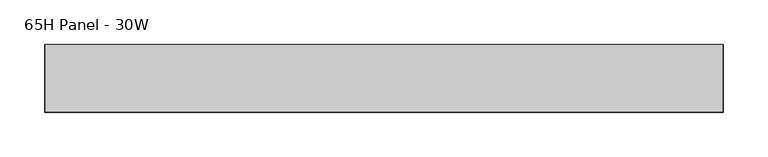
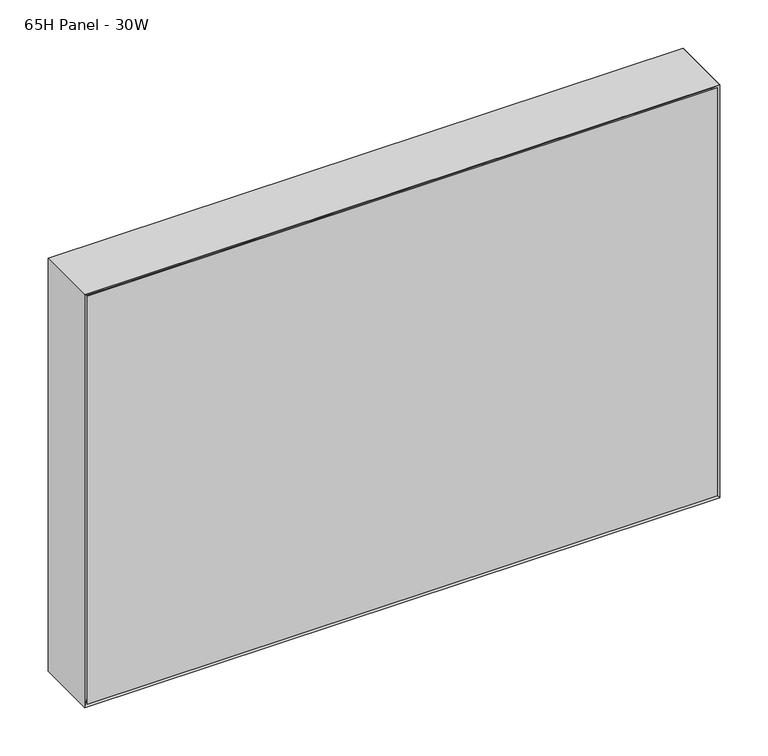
"""IFC4 building model written with IfcOpenShell, lengths in millimetres: furniture geometry, Steelcase - Montage - Frame - 20H - Enhanced Standard - Single Stack-On : 65H Panel - 30W."""

from ifc_helpers import new_model, si_unit, frame, origin, place, context, project, spatial, polyline, outline, extrude, faceted_brep, source, transform, mapped, element, save


def furniture_65h_panel_30w_e1906a29(model_context):
    return source(origin(), model_context, "Body", "SolidModel", [
        faceted_brep([(752.4750027, 31.7500194, 2174.8749516), (9.5250028, 31.7500194, 2174.8749516), (9.5250028, 31.7500194, 1670.05), (752.4750027, 31.7500194, 1670.05), (758.825, 38.1000194, 2181.2249516), (758.825, 38.1000194, 1663.7), (3.175, 38.1000194, 1663.7), (3.175, 38.1000194, 2181.2249516)], [[[0, 1, 2, 3]], [[4, 5, 6, 7]], [[4, 0, 3, 5]], [[5, 3, 2, 6]], [[6, 2, 1, 7]], [[7, 1, 0, 4]]]),
        faceted_brep([(752.4750027, -31.7500194, 2174.8749516), (752.4750027, -31.7500194, 1670.05), (9.5250028, -31.7500194, 1670.05), (9.5250028, -31.7500194, 2174.8749516), (758.825, -38.1000194, 2181.2249516), (3.175, -38.1000194, 2181.2249516), (3.175, -38.1000194, 1663.7), (758.825, -38.1000194, 1663.7)], [[[0, 1, 2, 3]], [[4, 5, 6, 7]], [[4, 7, 1, 0]], [[7, 6, 2, 1]], [[6, 5, 3, 2]], [[5, 4, 0, 3]]]),
        faceted_brep([(762.0, -38.1000015, 1660.525), (762.0, 38.1000015, 1660.525), (762.0, 38.1000015, 2184.3999516), (762.0, -38.1000106, 2184.3999515), (0.0, 38.1000015, 1660.525), (0.0, -38.1000015, 1660.525), (0.0, -38.1000015, 2184.3999516), (0.0, 38.1000015, 2184.3999516), (6.3500484, 31.749953, 1666.8750484), (755.6499879, 31.749953, 1666.8750484), (6.35, -31.749953, 1666.8750484), (755.6499879, -31.749953, 1666.8750484), (6.3500165, 31.749985, 2178.049935), (6.3500006, -31.7500009, 2178.0499031), (755.6499879, -31.7499979, 2178.0499031), (755.6499879, 31.7499889, 2178.0499394)], [[[0, 1, 2, 3]], [[4, 5, 6, 7]], [[1, 0, 5, 4]], [[1, 4, 8, 9]], [[9, 8, 10, 11]], [[5, 0, 11, 10]], [[4, 7, 12, 8]], [[6, 5, 10, 13]], [[10, 8, 12, 13]], [[9, 11, 14, 15]], [[0, 3, 14, 11]], [[2, 1, 9, 15]], [[3, 2, 15, 14]], [[7, 6, 13, 12]]]),
        faceted_brep([(762.0, -38.1000015, 2184.3999516), (0.0, -38.1000015, 2184.3999516), (6.3500484, -31.749953, 2178.0499031), (755.6499516, -31.749953, 2178.0499031), (6.3500484, 31.749953, 2178.0499031), (755.6499516, 31.749953, 2178.0499031), (0.0, 38.1000015, 2184.3999516), (762.0, 38.1000015, 2184.3999516)], [[[0, 1, 2, 3]], [[3, 2, 4, 5]], [[6, 7, 5, 4]], [[1, 0, 7, 6]], [[2, 1, 6, 4]], [[0, 3, 5, 7]]]),
        extrude(outline(polyline([(755.6499879, 31.7500016), (755.6499879, -31.7499985), (6.35, -31.7499985), (6.35, 31.7500016), (755.6499879, 31.7500016)])), frame((0.0, 0.0, 1666.8702145), z_axis=(0.0, 0.0, 1.0), x_axis=(1.0, 0.0, 0.0)), (0.0, 0.0, 1.0), 511.1796886),
    ])


if __name__ == "__main__":
    model = new_model("IFC4")
    model_context = context("Model", 3, world=origin())
    ifc_project = project(units=[si_unit("LENGTHUNIT", "METRE", prefix="MILLI")], contexts=[model_context])
    site = spatial("IfcSite", under=ifc_project)
    building = spatial("IfcBuilding", under=site)
    placement = place(None, origin())
    furniture_65h_panel_30w_shape = furniture_65h_panel_30w_e1906a29(model_context)
    element("IfcFurniture", 1, ObjectType="Steelcase - Montage - Frame - 20H - Enhanced Standard - Single Stack-On : 65H Panel - 30W", at=placement, inside=building, context=model_context, shape_type="MappedRepresentation", body=[
        mapped(furniture_65h_panel_30w_shape, transform((0.0, 0.0, 0.0), x_axis=(1.0, 0.0, 0.0), y_axis=(0.0, 1.0, 0.0), z_axis=(0.0, 0.0, 1.0))),
    ])
    save(model, "model.ifc")
